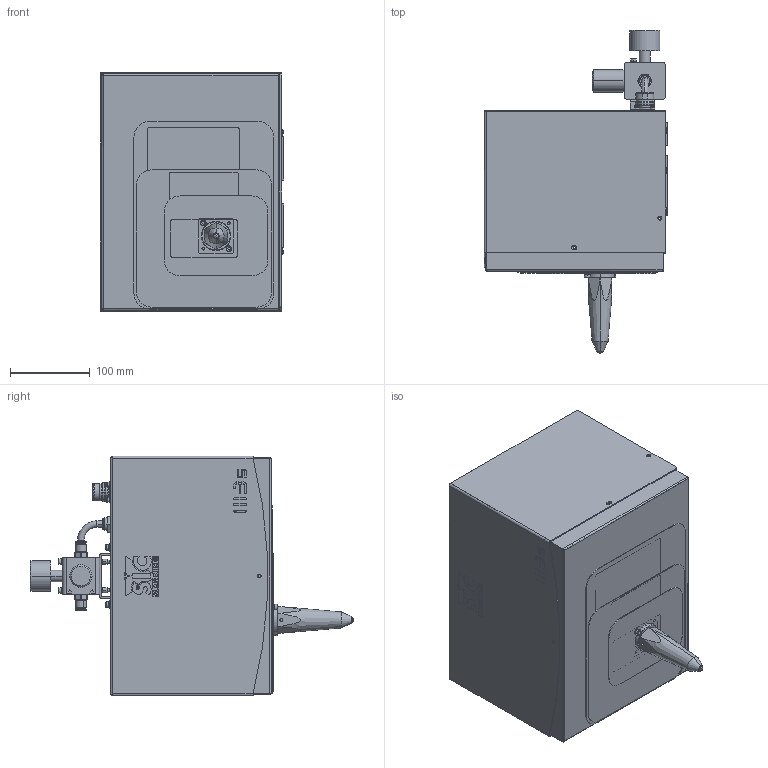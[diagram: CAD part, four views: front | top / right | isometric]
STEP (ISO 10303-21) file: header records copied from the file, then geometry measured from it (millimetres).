
FILE_DESCRIPTION (( 'STEP AP203' ), '1' );
FILE_NAME ('Assemblagei 113s+stylet 100.STEP', '2013-05-31T17:08:01', ( '' ), ( '' ), 'SwSTEP 2.0', 'SolidWorks 2011', '' );
FILE_SCHEMA (( 'CONFIG_CONTROL_DESIGN' ));
Length unit declared in the file: millimetre
Products named in the file (1): Assemblagei 113s+stylet 100
Bounding box: 230.2 x 405.2 x 300 mm (x, y, z)
Surface area: 798340.9 mm2 (no closed solid volume)
Topology: 0 solids, 64 shells, 748 faces, 2492 edges, 1748 vertices
Faces by surface type: plane 331, cylinder 279, cone 44, sphere 40, torus 39, bspline 15
Entity records: 29511 total; most frequent: CARTESIAN_POINT 7978, DIRECTION 4685, ORIENTED_EDGE 3829, EDGE_CURVE 2434, VERTEX_POINT 1720, AXIS2_PLACEMENT_3D 1662, LINE 1361, VECTOR 1361
